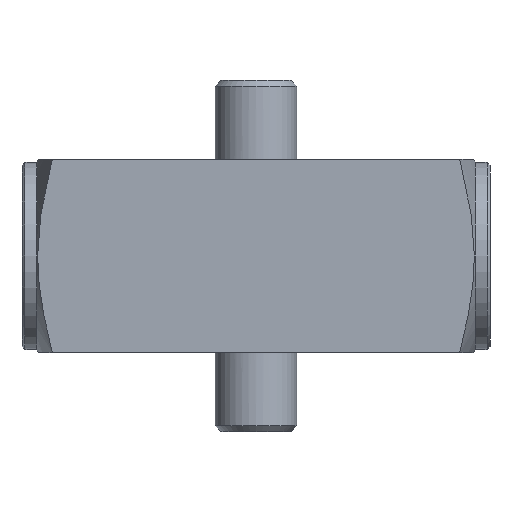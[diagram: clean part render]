
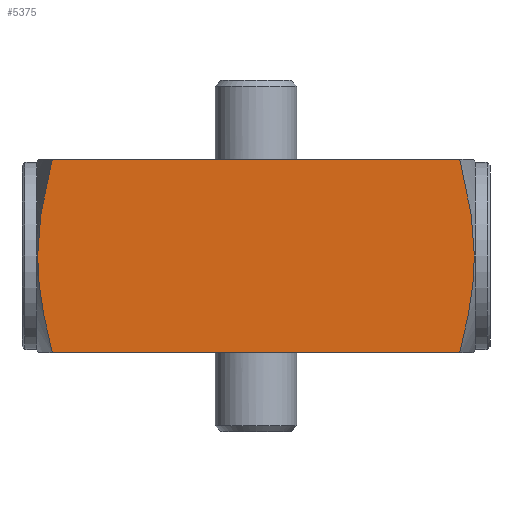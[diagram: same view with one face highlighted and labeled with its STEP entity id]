
A CAD part, front view. The second image highlights one B-rep face of the part: STEP entity #5375.
In plain terms, the highlighted planar face has unit normal (0, -1, 0).
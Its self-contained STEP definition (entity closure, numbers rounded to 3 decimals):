
#130=(
BOUNDED_CURVE()
B_SPLINE_CURVE(2,(#9375,#9376,#9377),.UNSPECIFIED.,.F.,.F.)
B_SPLINE_CURVE_WITH_KNOTS((3,3),(-34.143,-23.614),
 .UNSPECIFIED.)
CURVE()
GEOMETRIC_REPRESENTATION_ITEM()
RATIONAL_B_SPLINE_CURVE((6.045,7.297,7.297))
REPRESENTATION_ITEM('')
);
#131=(
BOUNDED_CURVE()
B_SPLINE_CURVE(2,(#9379,#9380,#9381,#9382),.UNSPECIFIED.,.F.,.F.)
B_SPLINE_CURVE_WITH_KNOTS((3,1,3),(13.139,22.087,23.707),
 .UNSPECIFIED.)
CURVE()
GEOMETRIC_REPRESENTATION_ITEM()
RATIONAL_B_SPLINE_CURVE((6.067,7.131,7.324,
7.324))
REPRESENTATION_ITEM('')
);
#132=(
BOUNDED_CURVE()
B_SPLINE_CURVE(2,(#9384,#9385,#9386),.UNSPECIFIED.,.F.,.F.)
B_SPLINE_CURVE_WITH_KNOTS((3,3),(23.707,34.275),
 .UNSPECIFIED.)
CURVE()
GEOMETRIC_REPRESENTATION_ITEM()
RATIONAL_B_SPLINE_CURVE((7.324,7.324,6.067))
REPRESENTATION_ITEM('')
);
#133=(
BOUNDED_CURVE()
B_SPLINE_CURVE(2,(#9389,#9390,#9391,#9392),.UNSPECIFIED.,.F.,.F.)
B_SPLINE_CURVE_WITH_KNOTS((3,1,3),(-23.614,-21.95,
-13.085),.UNSPECIFIED.)
CURVE()
GEOMETRIC_REPRESENTATION_ITEM()
RATIONAL_B_SPLINE_CURVE((7.297,7.297,7.099,
6.045))
REPRESENTATION_ITEM('')
);
#752=FACE_OUTER_BOUND('',#1072,.T.);
#1072=EDGE_LOOP('',(#4600,#4601,#4602,#4603,#4604,#4605));
#1467=LINE('',#8802,#1903);
#1511=LINE('',#9388,#1947);
#1903=VECTOR('',#6444,10.);
#1947=VECTOR('',#6812,10.);
#2306=VERTEX_POINT('',#8792);
#2308=VERTEX_POINT('',#8798);
#2423=VERTEX_POINT('',#9374);
#2424=VERTEX_POINT('',#9378);
#2425=VERTEX_POINT('',#9383);
#2426=VERTEX_POINT('',#9387);
#2963=EDGE_CURVE('',#2308,#2306,#1467,.T.);
#3152=EDGE_CURVE('',#2306,#2423,#130,.T.);
#3153=EDGE_CURVE('',#2424,#2308,#131,.F.);
#3154=EDGE_CURVE('',#2425,#2424,#132,.F.);
#3155=EDGE_CURVE('',#2425,#2426,#1511,.T.);
#3156=EDGE_CURVE('',#2423,#2426,#133,.T.);
#4600=ORIENTED_EDGE('',*,*,#3152,.F.);
#4601=ORIENTED_EDGE('',*,*,#2963,.F.);
#4602=ORIENTED_EDGE('',*,*,#3153,.F.);
#4603=ORIENTED_EDGE('',*,*,#3154,.F.);
#4604=ORIENTED_EDGE('',*,*,#3155,.T.);
#4605=ORIENTED_EDGE('',*,*,#3156,.F.);
#4796=PLANE('',#5726);
#5375=ADVANCED_FACE('',(#752),#4796,.T.);
#5726=AXIS2_PLACEMENT_3D('',#9373,#6810,#6811);
#6444=DIRECTION('',(1.,0.,0.));
#6810=DIRECTION('center_axis',(0.,-1.,0.));
#6811=DIRECTION('ref_axis',(0.,0.,-1.));
#6812=DIRECTION('',(1.,0.,0.));
#8792=CARTESIAN_POINT('',(28.927,-54.371,16.5));
#8798=CARTESIAN_POINT('',(-40.734,-54.371,16.5));
#8802=CARTESIAN_POINT('',(-45.904,-54.371,16.5));
#9373=CARTESIAN_POINT('Origin',(-45.904,-54.371,-16.5));
#9374=CARTESIAN_POINT('',(31.414,-54.371,0.));
#9375=CARTESIAN_POINT('Ctrl Pts',(28.927,-54.371,16.5));
#9376=CARTESIAN_POINT('Ctrl Pts',(31.414,-54.371,6.835));
#9377=CARTESIAN_POINT('Ctrl Pts',(31.414,-54.371,0.));
#9378=CARTESIAN_POINT('',(-43.222,-54.371,0.));
#9379=CARTESIAN_POINT('Ctrl Pts',(-40.734,-54.371,16.5));
#9380=CARTESIAN_POINT('Ctrl Pts',(-42.897,-54.371,8.095));
#9381=CARTESIAN_POINT('Ctrl Pts',(-43.222,-54.371,1.047));
#9382=CARTESIAN_POINT('Ctrl Pts',(-43.222,-54.371,0.));
#9383=CARTESIAN_POINT('',(-40.734,-54.371,-16.5));
#9384=CARTESIAN_POINT('Ctrl Pts',(-43.222,-54.371,0.));
#9385=CARTESIAN_POINT('Ctrl Pts',(-43.222,-54.371,-6.835));
#9386=CARTESIAN_POINT('Ctrl Pts',(-40.734,-54.371,-16.5));
#9387=CARTESIAN_POINT('',(28.927,-54.371,-16.5));
#9388=CARTESIAN_POINT('',(-45.904,-54.371,-16.5));
#9389=CARTESIAN_POINT('Ctrl Pts',(31.414,-54.371,0.));
#9390=CARTESIAN_POINT('Ctrl Pts',(31.414,-54.371,-1.08));
#9391=CARTESIAN_POINT('Ctrl Pts',(31.08,-54.371,-8.135));
#9392=CARTESIAN_POINT('Ctrl Pts',(28.927,-54.371,-16.5));
